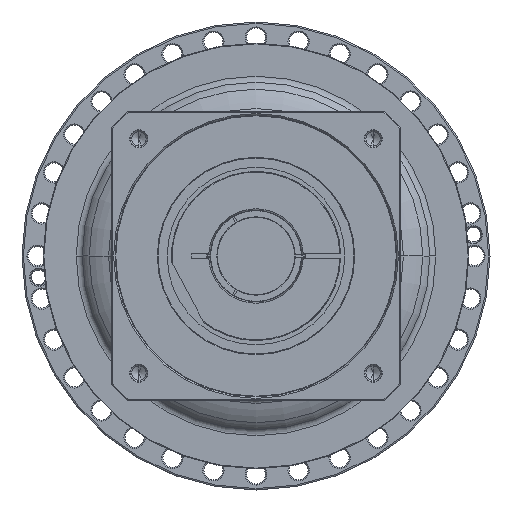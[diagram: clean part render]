
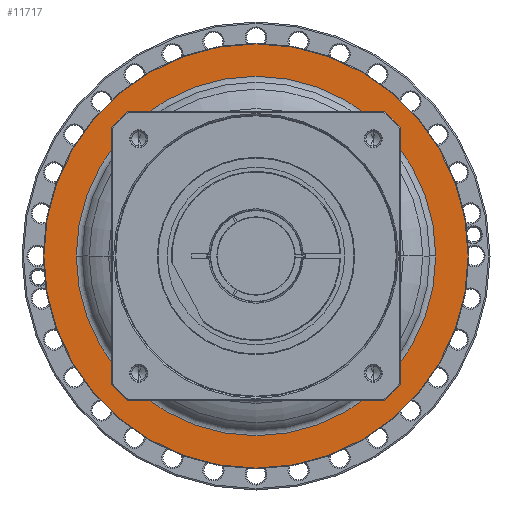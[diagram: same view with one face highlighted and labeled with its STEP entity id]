
A CAD part, left-side view. The second image highlights one B-rep face of the part: STEP entity #11717.
In plain terms, the highlighted planar face has unit normal (-1, 0, 0) as drawn and (1, 0, 0) by its records, which use the part's own axes.
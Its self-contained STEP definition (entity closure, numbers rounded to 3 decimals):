
#11124=CARTESIAN_POINT('',(-19.,0.,0.));
#11125=DIRECTION('',(1.,0.,0.));
#11126=DIRECTION('',(0.,1.,0.));
#11127=AXIS2_PLACEMENT_3D('',#11124,#11125,#11126);
#11129=CARTESIAN_POINT('',(-19.,0.,0.));
#11130=DIRECTION('',(1.,0.,0.));
#11131=DIRECTION('',(0.,-1.,0.));
#11132=AXIS2_PLACEMENT_3D('',#11129,#11130,#11131);
#11134=CARTESIAN_POINT('',(-19.,0.,0.));
#11135=DIRECTION('',(-1.,0.,0.));
#11136=DIRECTION('',(0.,-1.,0.));
#11137=AXIS2_PLACEMENT_3D('',#11134,#11135,#11136);
#11139=CARTESIAN_POINT('',(-19.,0.,0.));
#11140=DIRECTION('',(-1.,0.,0.));
#11141=DIRECTION('',(0.,1.,0.));
#11142=AXIS2_PLACEMENT_3D('',#11139,#11140,#11141);
#11268=CARTESIAN_POINT('',(-19.,-150.5,0.));
#11269=CARTESIAN_POINT('',(-19.,150.5,0.));
#11270=VERTEX_POINT('',#11268);
#11271=VERTEX_POINT('',#11269);
#11336=CARTESIAN_POINT('',(-19.,127.5,0.));
#11337=VERTEX_POINT('',#11336);
#11338=CARTESIAN_POINT('',(-19.,-127.5,0.));
#11339=VERTEX_POINT('',#11338);
#11702=CARTESIAN_POINT('',(-19.,0.,0.));
#11703=DIRECTION('',(1.,0.,0.));
#11704=DIRECTION('',(0.,-1.,0.));
#11705=AXIS2_PLACEMENT_3D('',#11702,#11703,#11704);
#11706=PLANE('',#11705);
#11707=ORIENTED_EDGE('',*,*,#11643,.T.);
#11708=ORIENTED_EDGE('',*,*,#11658,.T.);
#11709=EDGE_LOOP('',(#11707,#11708));
#11710=FACE_OUTER_BOUND('',#11709,.F.);
#11712=ORIENTED_EDGE('',*,*,#11711,.T.);
#11714=ORIENTED_EDGE('',*,*,#11713,.T.);
#11715=EDGE_LOOP('',(#11712,#11714));
#11716=FACE_BOUND('',#11715,.F.);
#11717=ADVANCED_FACE('',(#11710,#11716),#11706,.T.);
#11128=CIRCLE('',#11127,127.5);
#11133=CIRCLE('',#11132,127.5);
#11138=CIRCLE('',#11137,150.5);
#11143=CIRCLE('',#11142,150.5);
#11643=EDGE_CURVE('',#11270,#11271,#11138,.T.);
#11658=EDGE_CURVE('',#11271,#11270,#11143,.T.);
#11711=EDGE_CURVE('',#11337,#11339,#11128,.T.);
#11713=EDGE_CURVE('',#11339,#11337,#11133,.T.);
